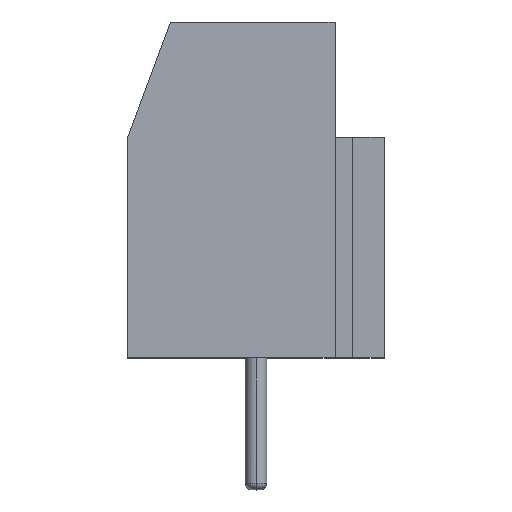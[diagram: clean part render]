
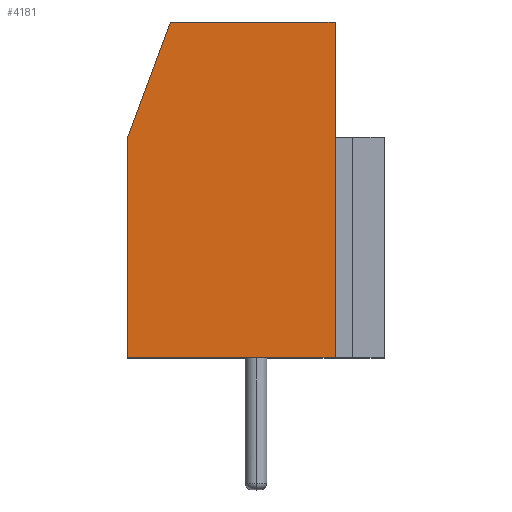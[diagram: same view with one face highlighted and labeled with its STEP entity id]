
A CAD part, top view. The second image highlights one B-rep face of the part: STEP entity #4181.
In plain terms, the highlighted planar face has unit normal (0, 0, 1).
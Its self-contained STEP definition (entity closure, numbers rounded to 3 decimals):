
#208 = DIRECTION ( 'NONE',  ( -1., 0., 0. ) ) ;
#324 = ORIENTED_EDGE ( 'NONE', *, *, #4801, .T. ) ;
#385 = DIRECTION ( 'NONE',  ( 0., 0., 1. ) ) ;
#431 = VERTEX_POINT ( 'NONE', #4458 ) ;
#539 = EDGE_CURVE ( 'NONE', #2066, #431, #5011, .T. ) ;
#1174 = CARTESIAN_POINT ( 'NONE',  ( -14.687, 10.2, 10. ) ) ;
#1234 = VERTEX_POINT ( 'NONE', #6248 ) ;
#1497 = VECTOR ( 'NONE', #5171, 1000. ) ;
#1530 = EDGE_CURVE ( 'NONE', #1234, #2066, #5772, .T. ) ;
#1748 = DIRECTION ( 'NONE',  ( 0., -1., 0. ) ) ;
#1784 = VERTEX_POINT ( 'NONE', #4040 ) ;
#1912 = VECTOR ( 'NONE', #208, 1000. ) ;
#1933 = FACE_OUTER_BOUND ( 'NONE', #3949, .T. ) ;
#1950 = ORIENTED_EDGE ( 'NONE', *, *, #1530, .T. ) ;
#2033 = CARTESIAN_POINT ( 'NONE',  ( -19.687, 10.2, 10. ) ) ;
#2066 = VERTEX_POINT ( 'NONE', #5650 ) ;
#2493 = VERTEX_POINT ( 'NONE', #3743 ) ;
#2653 = VECTOR ( 'NONE', #5043, 1000. ) ;
#2725 = ORIENTED_EDGE ( 'NONE', *, *, #4997, .T. ) ;
#2757 = LINE ( 'NONE', #4690, #6325 ) ;
#2869 = DIRECTION ( 'NONE',  ( 1., 0., 0. ) ) ;
#2917 = ORIENTED_EDGE ( 'NONE', *, *, #539, .T. ) ;
#3100 = CARTESIAN_POINT ( 'NONE',  ( -14.687, 6.7, 10. ) ) ;
#3153 = EDGE_CURVE ( 'NONE', #431, #1784, #2757, .T. ) ;
#3328 = AXIS2_PLACEMENT_3D ( 'NONE', #6364, #385, #5441 ) ;
#3743 = CARTESIAN_POINT ( 'NONE',  ( -14.687, 0., 10. ) ) ;
#3909 = CARTESIAN_POINT ( 'NONE',  ( -20.987, 0., 10. ) ) ;
#3949 = EDGE_LOOP ( 'NONE', ( #324, #2725, #1950, #2917, #6171 ) ) ;
#4040 = CARTESIAN_POINT ( 'NONE',  ( -20.987, 0., 10. ) ) ;
#4181 = ADVANCED_FACE ( 'NONE', ( #1933 ), #5348, .T. ) ;
#4458 = CARTESIAN_POINT ( 'NONE',  ( -20.987, 6.7, 10. ) ) ;
#4690 = CARTESIAN_POINT ( 'NONE',  ( -20.987, 0., 10. ) ) ;
#4801 = EDGE_CURVE ( 'NONE', #1784, #2493, #6332, .T. ) ;
#4997 = EDGE_CURVE ( 'NONE', #2493, #1234, #5604, .T. ) ;
#5011 = LINE ( 'NONE', #2033, #2653 ) ;
#5043 = DIRECTION ( 'NONE',  ( -0.348, -0.937, 0. ) ) ;
#5171 = DIRECTION ( 'NONE',  ( 0., 1., 0. ) ) ;
#5348 = PLANE ( 'NONE',  #3328 ) ;
#5441 = DIRECTION ( 'NONE',  ( 1., 0., 0. ) ) ;
#5604 = LINE ( 'NONE', #3100, #1497 ) ;
#5650 = CARTESIAN_POINT ( 'NONE',  ( -19.687, 10.2, 10. ) ) ;
#5772 = LINE ( 'NONE', #1174, #1912 ) ;
#6171 = ORIENTED_EDGE ( 'NONE', *, *, #3153, .T. ) ;
#6187 = VECTOR ( 'NONE', #2869, 1000. ) ;
#6248 = CARTESIAN_POINT ( 'NONE',  ( -14.687, 10.2, 10. ) ) ;
#6325 = VECTOR ( 'NONE', #1748, 1000. ) ;
#6332 = LINE ( 'NONE', #3909, #6187 ) ;
#6364 = CARTESIAN_POINT ( 'NONE',  ( -48.768, 11.735, 10. ) ) ;
